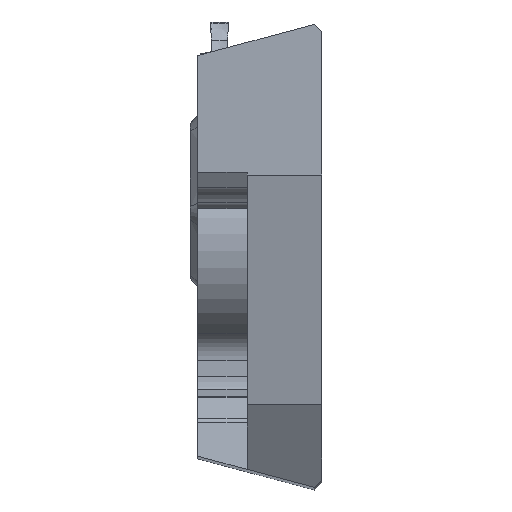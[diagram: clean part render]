
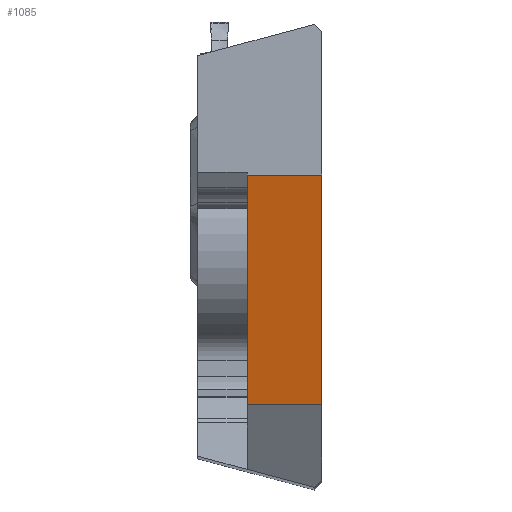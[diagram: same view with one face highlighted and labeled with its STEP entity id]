
A CAD part, top view. The second image highlights one B-rep face of the part: STEP entity #1085.
In plain terms, the highlighted planar face has unit normal (0, -0.208, 0.978).
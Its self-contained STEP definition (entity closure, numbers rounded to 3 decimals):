
#1065=AXIS2_PLACEMENT_3D('Plane Axis2P3D',#1062,#1063,#1064) ;
#978=CARTESIAN_POINT('Vertex',(0.,21.539,0.)) ;
#981=CARTESIAN_POINT('Line Origine',(0.,13.664,-1.674)) ;
#985=CARTESIAN_POINT('Vertex',(0.,5.789,-3.348)) ;
#1026=CARTESIAN_POINT('Line Origine',(-2.55,21.539,0.)) ;
#1030=CARTESIAN_POINT('Vertex',(-5.1,21.539,0.)) ;
#1062=CARTESIAN_POINT('Axis2P3D Location',(-8.5,21.539,0.)) ;
#1067=CARTESIAN_POINT('Line Origine',(-5.1,13.664,-1.674)) ;
#1071=CARTESIAN_POINT('Vertex',(-5.1,5.789,-3.348)) ;
#1074=CARTESIAN_POINT('Line Origine',(-2.55,5.789,-3.348)) ;
#982=DIRECTION('Vector Direction',(0.,-0.978,-0.208)) ;
#1027=DIRECTION('Vector Direction',(-1.,0.,0.)) ;
#1063=DIRECTION('Axis2P3D Direction',(0.,-0.208,0.978)) ;
#1064=DIRECTION('Axis2P3D XDirection',(0.,-0.978,-0.208)) ;
#1068=DIRECTION('Vector Direction',(0.,-0.978,-0.208)) ;
#1075=DIRECTION('Vector Direction',(1.,0.,0.)) ;
#983=VECTOR('Line Direction',#982,1.) ;
#1028=VECTOR('Line Direction',#1027,1.) ;
#1069=VECTOR('Line Direction',#1068,1.) ;
#1076=VECTOR('Line Direction',#1075,1.) ;
#1080=ORIENTED_EDGE('',*,*,#987,.F.) ;
#1081=ORIENTED_EDGE('',*,*,#1032,.T.) ;
#1082=ORIENTED_EDGE('',*,*,#1073,.T.) ;
#1083=ORIENTED_EDGE('',*,*,#1078,.T.) ;
#1085=ADVANCED_FACE('NO_CUT',(#1084),#1066,.T.) ;
#987=EDGE_CURVE('',#979,#986,#984,.T.) ;
#1032=EDGE_CURVE('',#979,#1031,#1029,.T.) ;
#1073=EDGE_CURVE('',#1031,#1072,#1070,.T.) ;
#1078=EDGE_CURVE('',#1072,#986,#1077,.T.) ;
#1079=EDGE_LOOP('',(#1080,#1081,#1082,#1083)) ;
#1084=FACE_OUTER_BOUND('',#1079,.T.) ;
#984=LINE('Line',#981,#983) ;
#1029=LINE('Line',#1026,#1028) ;
#1070=LINE('Line',#1067,#1069) ;
#1077=LINE('Line',#1074,#1076) ;
#1066=PLANE('',#1065) ;
#979=VERTEX_POINT('',#978) ;
#986=VERTEX_POINT('',#985) ;
#1031=VERTEX_POINT('',#1030) ;
#1072=VERTEX_POINT('',#1071) ;
